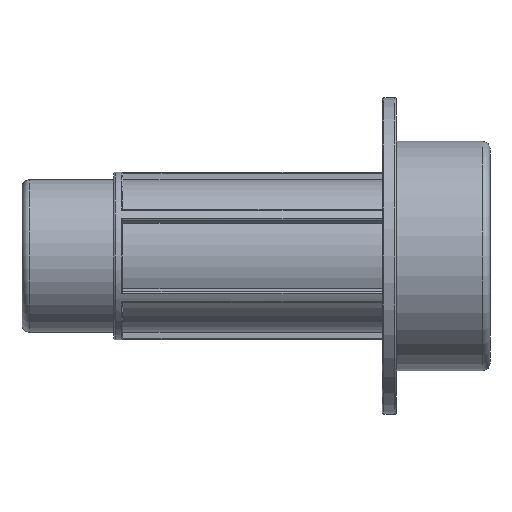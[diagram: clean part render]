
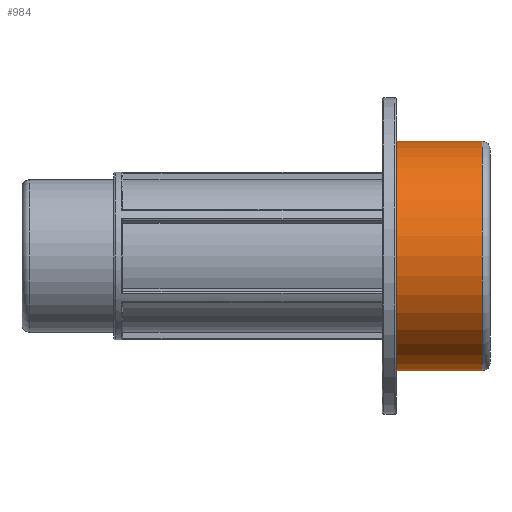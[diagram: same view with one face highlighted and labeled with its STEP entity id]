
A CAD part, front view. The second image highlights one B-rep face of the part: STEP entity #984.
In plain terms, the highlighted cylindrical face has radius 25 mm (diameter 50 mm), a full revolution.
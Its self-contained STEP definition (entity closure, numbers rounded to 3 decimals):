
#201=CYLINDRICAL_SURFACE('',#1095,25.);
#214=FACE_BOUND('',#337,.T.);
#270=FACE_OUTER_BOUND('',#336,.T.);
#336=EDGE_LOOP('',(#907));
#337=EDGE_LOOP('',(#908));
#394=CIRCLE('',#1074,25.);
#399=CIRCLE('',#1093,25.);
#492=VERTEX_POINT('',#1831);
#497=VERTEX_POINT('',#1863);
#624=EDGE_CURVE('',#492,#492,#394,.T.);
#637=EDGE_CURVE('',#497,#497,#399,.T.);
#907=ORIENTED_EDGE('',*,*,#624,.T.);
#908=ORIENTED_EDGE('',*,*,#637,.F.);
#984=ADVANCED_FACE('',(#270,#214),#201,.T.);
#1074=AXIS2_PLACEMENT_3D('',#1832,#1322,#1323);
#1093=AXIS2_PLACEMENT_3D('',#1864,#1368,#1369);
#1095=AXIS2_PLACEMENT_3D('',#1867,#1372,#1373);
#1322=DIRECTION('center_axis',(1.,0.,0.));
#1323=DIRECTION('ref_axis',(0.,0.,-1.));
#1368=DIRECTION('center_axis',(1.,0.,0.));
#1369=DIRECTION('ref_axis',(0.,-1.,0.));
#1372=DIRECTION('center_axis',(1.,0.,0.));
#1373=DIRECTION('ref_axis',(0.,1.,0.));
#1831=CARTESIAN_POINT('',(-20.4,25.,0.));
#1832=CARTESIAN_POINT('Origin',(-20.4,0.,0.));
#1863=CARTESIAN_POINT('',(-1.662,25.,0.));
#1864=CARTESIAN_POINT('Origin',(-1.662,0.,0.));
#1867=CARTESIAN_POINT('Origin',(-10.2,0.,0.));
